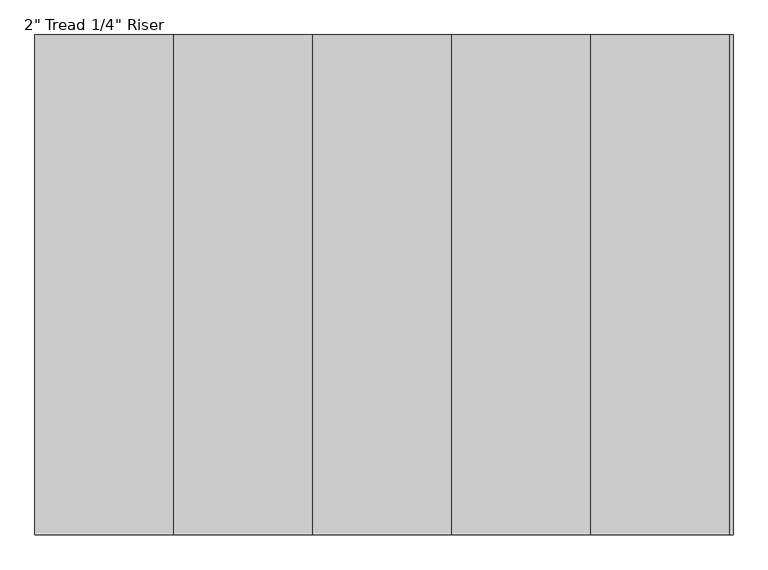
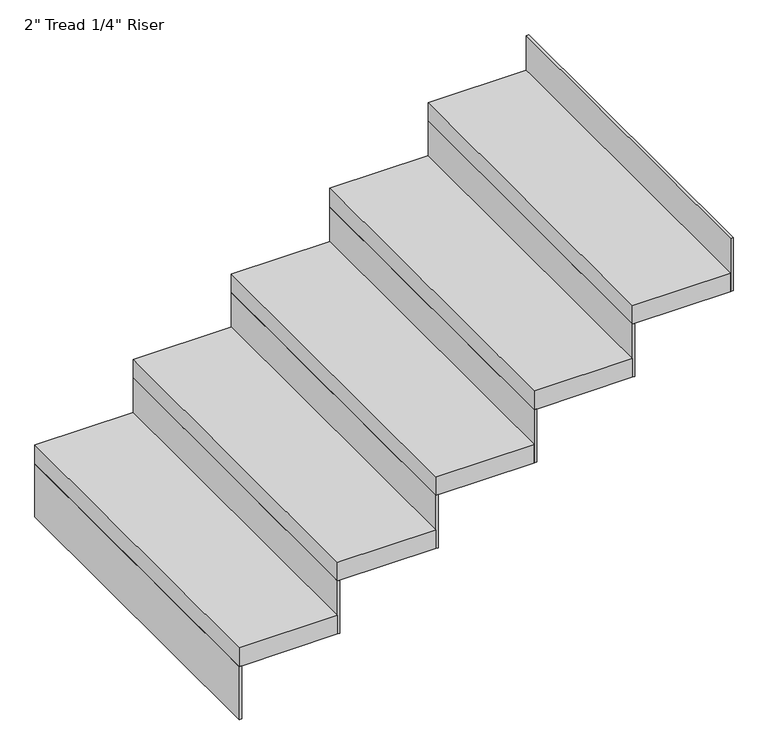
"""IFC4 building model written with IfcOpenShell, lengths in millimetres: stair flight geometry."""

from ifc_helpers import new_model, si_unit, frame, origin, place, context, project, spatial, polyline, outline, extrude, source, transform, mapped, element, save


def stair_flight_51ef5601(model_context):
    return source(origin(), model_context, "Body", "SweptSolid", [
        extrude(outline(polyline([(51277.8741768, 28700.5361774), (51271.5241768, 28700.5361774), (51271.5241768, 29614.9361774), (51277.8741768, 29614.9361774), (51277.8741768, 28700.5361774)])), frame((0.0, 0.0, 2126.3428571), z_axis=(0.0, 0.0, 1.0), x_axis=(1.0, 0.0, 0.0)), (0.0, 0.0, 1.0), 145.1428571),
        extrude(outline(polyline([(51525.5241768, 29614.9361774), (51525.5241768, 28700.5361774), (51271.5241768, 28700.5361774), (51271.5241768, 29614.9361774), (51525.5241768, 29614.9361774)])), frame((0.0, 0.0, 2271.4857143), z_axis=(0.0, 0.0, 1.0), x_axis=(1.0, 0.0, 0.0)), (0.0, 0.0, 1.0), 50.8),
        extrude(outline(polyline([(51531.8741768, 28700.5361774), (51525.5241768, 28700.5361774), (51525.5241768, 29614.9361774), (51531.8741768, 29614.9361774), (51531.8741768, 28700.5361774)])), frame((0.0, 0.0, 2271.4857143), z_axis=(0.0, 0.0, 1.0), x_axis=(1.0, 0.0, 0.0)), (0.0, 0.0, 1.0), 145.1428571),
        extrude(outline(polyline([(51779.5241768, 29614.9361774), (51779.5241768, 28700.5361774), (51525.5241768, 28700.5361774), (51525.5241768, 29614.9361774), (51779.5241768, 29614.9361774)])), frame((0.0, 0.0, 2416.6285714), z_axis=(0.0, 0.0, 1.0), x_axis=(1.0, 0.0, 0.0)), (0.0, 0.0, 1.0), 50.8),
        extrude(outline(polyline([(51785.8741768, 28700.5361774), (51779.5241768, 28700.5361774), (51779.5241768, 29614.9361774), (51785.8741768, 29614.9361774), (51785.8741768, 28700.5361774)])), frame((0.0, 0.0, 2416.6285714), z_axis=(0.0, 0.0, 1.0), x_axis=(1.0, 0.0, 0.0)), (0.0, 0.0, 1.0), 145.1428571),
        extrude(outline(polyline([(52033.5241768, 29614.9361774), (52033.5241768, 28700.5361774), (51779.5241768, 28700.5361774), (51779.5241768, 29614.9361774), (52033.5241768, 29614.9361774)])), frame((0.0, 0.0, 2561.7714286), z_axis=(0.0, 0.0, 1.0), x_axis=(1.0, 0.0, 0.0)), (0.0, 0.0, 1.0), 50.8),
        extrude(outline(polyline([(52039.8741768, 28700.5361774), (52033.5241768, 28700.5361774), (52033.5241768, 29614.9361774), (52039.8741768, 29614.9361774), (52039.8741768, 28700.5361774)])), frame((0.0, 0.0, 2561.7714286), z_axis=(0.0, 0.0, 1.0), x_axis=(1.0, 0.0, 0.0)), (0.0, 0.0, 1.0), 145.1428571),
        extrude(outline(polyline([(52287.5241768, 29614.9361774), (52287.5241768, 28700.5361774), (52033.5241768, 28700.5361774), (52033.5241768, 29614.9361774), (52287.5241768, 29614.9361774)])), frame((0.0, 0.0, 2706.9142857), z_axis=(0.0, 0.0, 1.0), x_axis=(1.0, 0.0, 0.0)), (0.0, 0.0, 1.0), 50.8),
        extrude(outline(polyline([(52293.8741768, 28700.5361774), (52287.5241768, 28700.5361774), (52287.5241768, 29614.9361774), (52293.8741768, 29614.9361774), (52293.8741768, 28700.5361774)])), frame((0.0, 0.0, 2706.9142857), z_axis=(0.0, 0.0, 1.0), x_axis=(1.0, 0.0, 0.0)), (0.0, 0.0, 1.0), 145.1428571),
        extrude(outline(polyline([(52547.8741768, 28700.5361774), (52541.5241768, 28700.5361774), (52541.5241768, 29614.9361774), (52547.8741768, 29614.9361774), (52547.8741768, 28700.5361774)])), frame((0.0, 0.0, 2852.0571429), z_axis=(0.0, 0.0, 1.0), x_axis=(1.0, 0.0, 0.0)), (0.0, 0.0, 1.0), 145.1428571),
        extrude(outline(polyline([(52541.5241768, 29614.9361774), (52541.5241768, 28700.5361774), (52287.5241768, 28700.5361774), (52287.5241768, 29614.9361774), (52541.5241768, 29614.9361774)])), frame((0.0, 0.0, 2852.0571429), z_axis=(0.0, 0.0, 1.0), x_axis=(1.0, 0.0, 0.0)), (0.0, 0.0, 1.0), 50.8),
    ])


if __name__ == "__main__":
    model = new_model("IFC4")
    model_context = context("Model", 3, world=origin())
    ifc_project = project(units=[si_unit("LENGTHUNIT", "METRE", prefix="MILLI")], contexts=[model_context])
    site = spatial("IfcSite", under=ifc_project)
    building = spatial("IfcBuilding", under=site)
    placement = place(None, origin())
    stair_flight_shape = stair_flight_51ef5601(model_context)
    element("IfcStairFlight", 1, ObjectType="2\" Tread 1/4\" Riser", at=placement, inside=building, context=model_context, shape_type="MappedRepresentation", body=[
        mapped(stair_flight_shape, transform((0.0, 0.0, 0.0), x_axis=(1.0, 0.0, 0.0), y_axis=(0.0, 1.0, 0.0), z_axis=(0.0, 0.0, 1.0))),
    ])
    save(model, "model.ifc")
